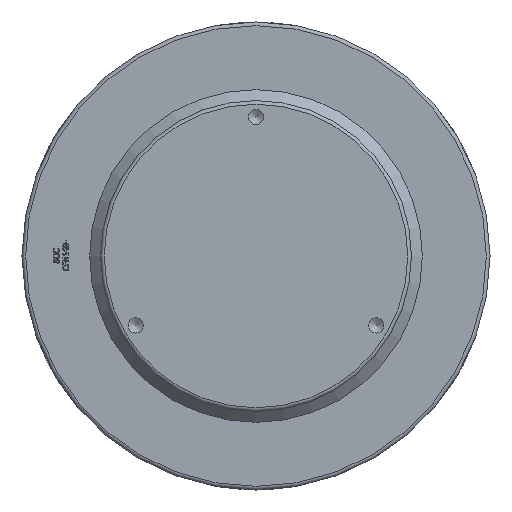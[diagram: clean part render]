
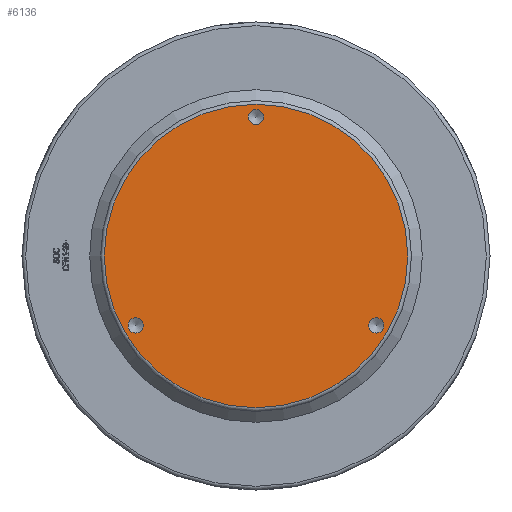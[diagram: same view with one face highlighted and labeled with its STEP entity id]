
A CAD part, front view. The second image highlights one B-rep face of the part: STEP entity #6136.
In plain terms, the highlighted planar face has unit normal (0, -1, 0) as drawn and (0, 1, 0) by its records, which use the part's own axes.
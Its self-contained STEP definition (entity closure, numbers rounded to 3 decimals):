
#108=PLANE('',#6465);
#1788=FACE_BOUND('',#2378,.T.);
#1789=FACE_BOUND('',#2379,.T.);
#1790=FACE_BOUND('',#2380,.T.);
#2009=FACE_OUTER_BOUND('',#2377,.T.);
#2377=EDGE_LOOP('',(#5026));
#2378=EDGE_LOOP('',(#5027));
#2379=EDGE_LOOP('',(#5028));
#2380=EDGE_LOOP('',(#5029));
#2603=CIRCLE('',#6375,10.376);
#2605=CIRCLE('',#6379,10.376);
#2607=CIRCLE('',#6383,10.376);
#2609=CIRCLE('',#6463,207.5);
#2629=VERTEX_POINT('',#7566);
#2631=VERTEX_POINT('',#7572);
#2633=VERTEX_POINT('',#7578);
#2925=VERTEX_POINT('',#9533);
#3245=EDGE_CURVE('',#2629,#2629,#2603,.T.);
#3247=EDGE_CURVE('',#2631,#2631,#2605,.T.);
#3249=EDGE_CURVE('',#2633,#2633,#2607,.T.);
#3686=EDGE_CURVE('',#2925,#2925,#2609,.T.);
#5026=ORIENTED_EDGE('',*,*,#3686,.F.);
#5027=ORIENTED_EDGE('',*,*,#3245,.T.);
#5028=ORIENTED_EDGE('',*,*,#3247,.T.);
#5029=ORIENTED_EDGE('',*,*,#3249,.T.);
#6136=ADVANCED_FACE('',(#2009,#1788,#1789,#1790),#108,.T.);
#6375=AXIS2_PLACEMENT_3D('',#7567,#6597,#6598);
#6379=AXIS2_PLACEMENT_3D('',#7573,#6605,#6606);
#6383=AXIS2_PLACEMENT_3D('',#7579,#6613,#6614);
#6463=AXIS2_PLACEMENT_3D('',#9534,#7044,#7045);
#6465=AXIS2_PLACEMENT_3D('',#9537,#7048,#7049);
#6597=DIRECTION('center_axis',(0.,-1.,0.));
#6598=DIRECTION('ref_axis',(-0.5,0.,-0.866));
#6605=DIRECTION('center_axis',(0.,-1.,0.));
#6606=DIRECTION('ref_axis',(-0.5,0.,0.866));
#6613=DIRECTION('center_axis',(0.,-1.,0.));
#6614=DIRECTION('ref_axis',(1.,0.,0.));
#7044=DIRECTION('center_axis',(0.,-1.,0.));
#7045=DIRECTION('ref_axis',(-1.,0.,0.));
#7048=DIRECTION('center_axis',(0.,1.,0.));
#7049=DIRECTION('ref_axis',(0.,0.,1.));
#7566=CARTESIAN_POINT('',(159.357,388.5,-103.986));
#7567=CARTESIAN_POINT('Origin',(164.545,388.5,-95.));
#7572=CARTESIAN_POINT('',(-169.733,388.5,-86.014));
#7573=CARTESIAN_POINT('Origin',(-164.545,388.5,-95.));
#7578=CARTESIAN_POINT('',(10.376,388.5,190.));
#7579=CARTESIAN_POINT('Origin',(0.,388.5,190.));
#9533=CARTESIAN_POINT('',(207.5,388.5,0.));
#9534=CARTESIAN_POINT('Origin',(0.,388.5,0.));
#9537=CARTESIAN_POINT('Origin',(212.5,388.5,0.));
